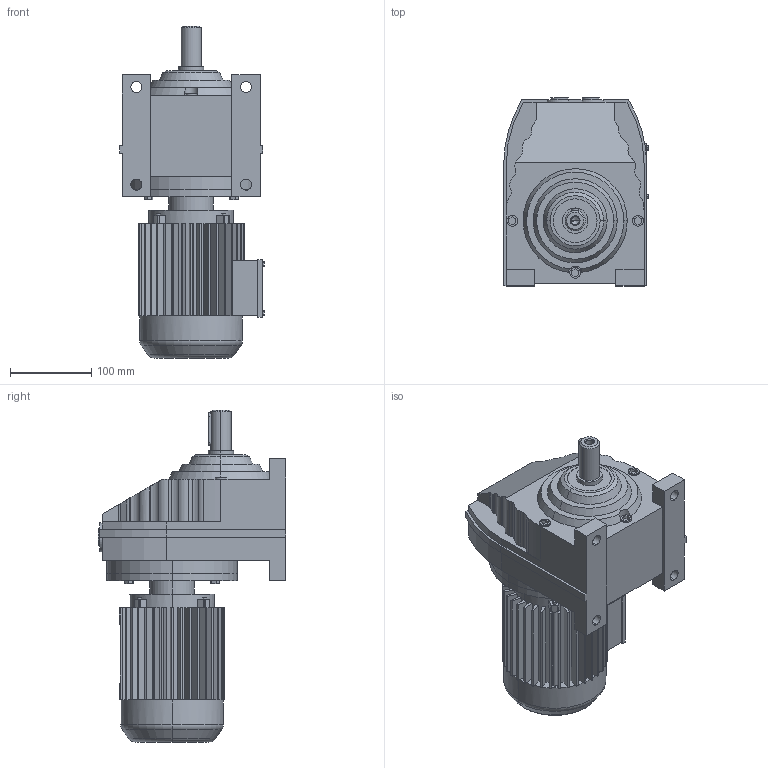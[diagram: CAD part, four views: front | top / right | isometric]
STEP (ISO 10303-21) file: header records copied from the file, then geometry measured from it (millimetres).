
FILE_DESCRIPTION(('Open CASCADE Model'),'2;1');
FILE_NAME('Open CASCADE Shape Model','2018-09-13T11:41:48',('Author'),( 'Open CASCADE'),'Open CASCADE STEP processor 6.3','Open CASCADE 6.3' ,'Unknown');
FILE_SCHEMA(('AUTOMOTIVE_DESIGN_CC2 { 1 2 10303 214 -1 1 5 4 }'));
Length unit declared in the file: millimetre
Products named in the file (3): 259_RX67-Y63S; RX57‵107_67.step; 萇儂_160_Y63S.step
Assembly tree (2 placements, depth 2):
  259_RX67-Y63S
    RX57‵107_67.step
    萇儂_160_Y63S.step
Bounding box: 178 x 231 x 408 mm (x, y, z)
Volume: 6270871.9 mm3; surface area: 416466.2 mm2
Topology: 2 solids, 2 shells, 630 faces, 1656 edges, 1069 vertices
Faces by surface type: plane 425, cylinder 184, cone 17, torus 4
Entity records: 42579 total; most frequent: CARTESIAN_POINT 11288, DIRECTION 5401, ORIENTED_EDGE 3308, PCURVE 3308, DEFINITIONAL_REPRESENTATION 3308, LINE 2848, VECTOR 2848, EDGE_CURVE 1654
